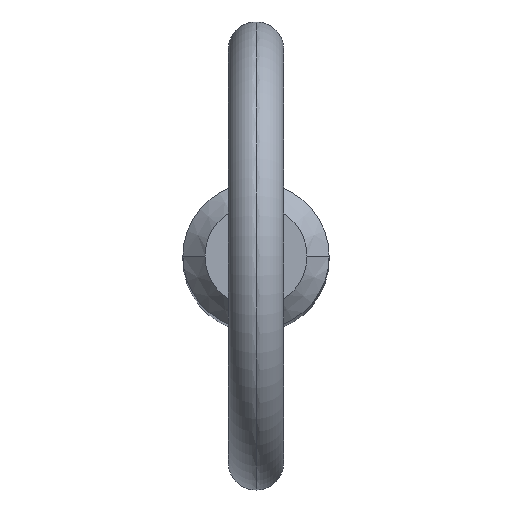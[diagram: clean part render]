
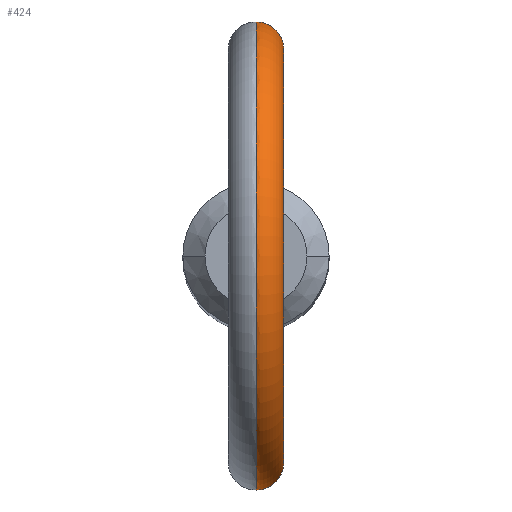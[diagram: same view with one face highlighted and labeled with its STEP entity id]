
A CAD part, top view. The second image highlights one B-rep face of the part: STEP entity #424.
In plain terms, the highlighted toroidal (fillet/blend) face has major radius 11.2 mm and minor radius 1.5 mm.
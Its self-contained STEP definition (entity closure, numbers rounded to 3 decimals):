
#18 = ORIENTED_EDGE ( 'NONE', *, *, #434, .F. ) ;
#21 = VERTEX_POINT ( 'NONE', #297 ) ;
#25 = CARTESIAN_POINT ( 'NONE',  ( 1.237, -3.77, 80.031 ) ) ;
#38 = VERTEX_POINT ( 'NONE', #217 ) ;
#48 = CARTESIAN_POINT ( 'NONE',  ( 0.498, -3.935, 82.544 ) ) ;
#55 = EDGE_LOOP ( 'NONE', ( #18, #246, #289, #303 ) ) ;
#61 = CARTESIAN_POINT ( 'NONE',  ( 1.291, 3.75, 81.784 ) ) ;
#93 = CARTESIAN_POINT ( 'NONE',  ( 0.102, -3.965, 82.647 ) ) ;
#97 = VERTEX_POINT ( 'NONE', #256 ) ;
#98 = CARTESIAN_POINT ( 'NONE',  ( 0.693, -3.905, 79.59 ) ) ;
#107 = CARTESIAN_POINT ( 'NONE',  ( 0.927, 3.858, 82.267 ) ) ;
#110 = DIRECTION ( 'NONE',  ( 1., 0., 0. ) ) ;
#138 = CARTESIAN_POINT ( 'NONE',  ( 0.77, -3.894, 82.4 ) ) ;
#142 = CARTESIAN_POINT ( 'NONE',  ( 1.503, -3.669, 80.899 ) ) ;
#144 = CIRCLE ( 'NONE', #443, 9.7 ) ;
#145 = CARTESIAN_POINT ( 'NONE',  ( 0., 3.965, 79.435 ) ) ;
#146 = AXIS2_PLACEMENT_3D ( 'NONE', #208, #222, #215 ) ;
#147 = CARTESIAN_POINT ( 'NONE',  ( 1.236, 3.77, 80.029 ) ) ;
#150 = CARTESIAN_POINT ( 'NONE',  ( 0.409, -3.948, 79.474 ) ) ;
#171 = CARTESIAN_POINT ( 'NONE',  ( 0.205, -3.961, 82.634 ) ) ;
#178 = EDGE_CURVE ( 'NONE', #21, #467, #415, .T. ) ;
#181 = CARTESIAN_POINT ( 'NONE',  ( 1.499, -3.671, 80.797 ) ) ;
#184 = CARTESIAN_POINT ( 'NONE',  ( 0.782, -3.888, 79.637 ) ) ;
#185 = CARTESIAN_POINT ( 'NONE',  ( 1.499, 3.671, 80.794 ) ) ;
#203 = AXIS2_PLACEMENT_3D ( 'NONE', #307, #110, #344 ) ;
#208 = CARTESIAN_POINT ( 'NONE',  ( 0., 0., 91.5 ) ) ;
#215 = DIRECTION ( 'NONE',  ( 0., 0., -1. ) ) ;
#217 = CARTESIAN_POINT ( 'NONE',  ( 0., 3.965, 79.435 ) ) ;
#220 = CARTESIAN_POINT ( 'NONE',  ( 1.471, -3.682, 80.594 ) ) ;
#222 = DIRECTION ( 'NONE',  ( 1., 0., 0. ) ) ;
#226 = CARTESIAN_POINT ( 'NONE',  ( 0.205, -3.965, 79.435 ) ) ;
#227 = CARTESIAN_POINT ( 'NONE',  ( 1.344, 3.731, 80.203 ) ) ;
#228 = CARTESIAN_POINT ( 'NONE',  ( 1.488, 3.675, 81.205 ) ) ;
#229 = CARTESIAN_POINT ( 'NONE',  ( 0.949, -3.851, 79.749 ) ) ;
#236 = CIRCLE ( 'NONE', #146, 12.7 ) ;
#246 = ORIENTED_EDGE ( 'NONE', *, *, #320, .T. ) ;
#256 = CARTESIAN_POINT ( 'NONE',  ( 0., 3.965, 82.647 ) ) ;
#257 = CARTESIAN_POINT ( 'NONE',  ( 0., 0., 91.5 ) ) ;
#262 = CARTESIAN_POINT ( 'NONE',  ( 1.503, 3.669, 80.898 ) ) ;
#266 = CARTESIAN_POINT ( 'NONE',  ( 1.404, -3.708, 81.501 ) ) ;
#270 = CARTESIAN_POINT ( 'NONE',  ( 0.41, 3.948, 79.474 ) ) ;
#271 = FACE_OUTER_BOUND ( 'NONE', #55, .T. ) ;
#279 = CARTESIAN_POINT ( 'NONE',  ( 0.769, 3.894, 82.401 ) ) ;
#289 = ORIENTED_EDGE ( 'NONE', *, *, #178, .F. ) ;
#291 = DIRECTION ( 'NONE',  ( 1., 0., 0. ) ) ;
#297 = CARTESIAN_POINT ( 'NONE',  ( 0., -3.965, 82.647 ) ) ;
#301 = DIRECTION ( 'NONE',  ( 0., 0., -1. ) ) ;
#303 = ORIENTED_EDGE ( 'NONE', *, *, #371, .F. ) ;
#307 = CARTESIAN_POINT ( 'NONE',  ( 0., 0., 91.5 ) ) ;
#308 = CARTESIAN_POINT ( 'NONE',  ( 1.291, -3.75, 81.783 ) ) ;
#309 = CARTESIAN_POINT ( 'NONE',  ( 0.691, 3.905, 79.589 ) ) ;
#314 = CARTESIAN_POINT ( 'NONE',  ( 1.493, -3.673, 81.104 ) ) ;
#319 = CARTESIAN_POINT ( 'NONE',  ( 0.411, 3.948, 82.591 ) ) ;
#320 = EDGE_CURVE ( 'NONE', #38, #467, #236, .T. ) ;
#332 = CARTESIAN_POINT ( 'NONE',  ( 0.925, -3.858, 82.268 ) ) ;
#337 = CARTESIAN_POINT ( 'NONE',  ( 0., -3.965, 82.647 ) ) ;
#344 = DIRECTION ( 'NONE',  ( 0., 0., -1. ) ) ;
#345 = CARTESIAN_POINT ( 'NONE',  ( 1.185, 3.786, 81.96 ) ) ;
#348 = CARTESIAN_POINT ( 'NONE',  ( 1.346, -3.73, 80.208 ) ) ;
#353 = TOROIDAL_SURFACE ( 'NONE', #203, 11.2, 1.5 ) ;
#357 = CARTESIAN_POINT ( 'NONE',  ( 0., 3.965, 82.647 ) ) ;
#370 = CARTESIAN_POINT ( 'NONE',  ( 0.404, -3.946, 82.582 ) ) ;
#371 = EDGE_CURVE ( 'NONE', #97, #21, #144, .T. ) ;
#379 = CARTESIAN_POINT ( 'NONE',  ( 1.028, -3.83, 79.815 ) ) ;
#381 = CARTESIAN_POINT ( 'NONE',  ( 0.782, 3.888, 79.637 ) ) ;
#414 = CARTESIAN_POINT ( 'NONE',  ( 1.447, 3.692, 80.493 ) ) ;
#415 = B_SPLINE_CURVE_WITH_KNOTS ( 'NONE', 3,
 ( #337, #93, #171, #370, #48, #138, #332, #497, #308, #266, #491, #456, #314, #142, #181, #220, #453, #348, #25, #379, #229, #184, #98, #150, #226, #417 ),
 .UNSPECIFIED., .F., .F.,
 ( 4, 2, 2, 2, 2, 2, 2, 2, 2, 2, 2, 2, 4 ),
 ( 0.004, 0.005, 0.005, 0.005, 0.006, 0.006, 0.007, 0.007, 0.007, 0.008, 0.008, 0.008, 0.009 ),
 .UNSPECIFIED. ) ;
#417 = CARTESIAN_POINT ( 'NONE',  ( 0., -3.965, 79.435 ) ) ;
#424 = ADVANCED_FACE ( 'NONE', ( #271 ), #353, .T. ) ;
#426 = B_SPLINE_CURVE_WITH_KNOTS ( 'NONE', 3,
 ( #145, #501, #270, #309, #381, #458, #454, #147, #227, #414, #494, #185, #262, #228, #496, #61, #345, #107, #279, #319, #430, #357 ),
 .UNSPECIFIED., .F., .F.,
 ( 4, 2, 2, 2, 2, 2, 2, 2, 2, 2, 4 ),
 ( 0.001, 0.001, 0.002, 0.002, 0.003, 0.003, 0.003, 0.004, 0.004, 0.005, 0.006 ),
 .UNSPECIFIED. ) ;
#430 = CARTESIAN_POINT ( 'NONE',  ( 0.206, 3.965, 82.647 ) ) ;
#434 = EDGE_CURVE ( 'NONE', #38, #97, #426, .T. ) ;
#443 = AXIS2_PLACEMENT_3D ( 'NONE', #257, #291, #301 ) ;
#453 = CARTESIAN_POINT ( 'NONE',  ( 1.447, -3.692, 80.493 ) ) ;
#454 = CARTESIAN_POINT ( 'NONE',  ( 1.026, 3.831, 79.813 ) ) ;
#456 = CARTESIAN_POINT ( 'NONE',  ( 1.479, -3.679, 81.207 ) ) ;
#458 = CARTESIAN_POINT ( 'NONE',  ( 0.949, 3.851, 79.749 ) ) ;
#466 = CARTESIAN_POINT ( 'NONE',  ( 0., -3.965, 79.435 ) ) ;
#467 = VERTEX_POINT ( 'NONE', #466 ) ;
#491 = CARTESIAN_POINT ( 'NONE',  ( 1.434, -3.697, 81.405 ) ) ;
#494 = CARTESIAN_POINT ( 'NONE',  ( 1.47, 3.682, 80.592 ) ) ;
#496 = CARTESIAN_POINT ( 'NONE',  ( 1.441, 3.695, 81.408 ) ) ;
#497 = CARTESIAN_POINT ( 'NONE',  ( 1.186, -3.786, 81.959 ) ) ;
#501 = CARTESIAN_POINT ( 'NONE',  ( 0.204, 3.965, 79.435 ) ) ;
